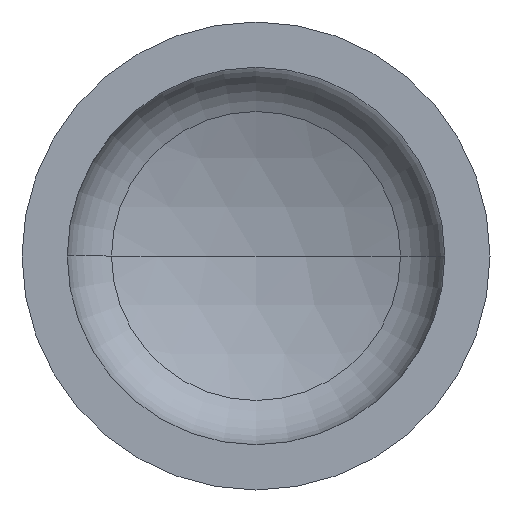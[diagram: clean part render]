
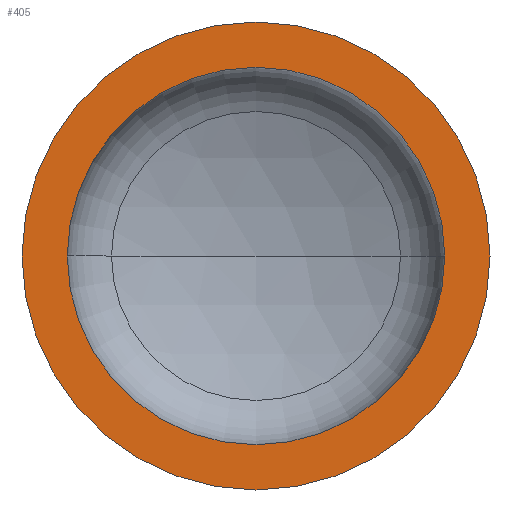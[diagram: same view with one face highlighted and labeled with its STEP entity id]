
A CAD part, front view. The second image highlights one B-rep face of the part: STEP entity #405.
In plain terms, the highlighted planar face has unit normal (0, -1, 0).
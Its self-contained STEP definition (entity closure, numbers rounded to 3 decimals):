
#1 = ORIENTED_EDGE ( 'NONE', *, *, #144, .F. ) ;
#14 = EDGE_LOOP ( 'NONE', ( #59, #17 ) ) ;
#16 = AXIS2_PLACEMENT_3D ( 'NONE', #68, #123, #142 ) ;
#17 = ORIENTED_EDGE ( 'NONE', *, *, #140, .T. ) ;
#55 = EDGE_LOOP ( 'NONE', ( #1, #108 ) ) ;
#59 = ORIENTED_EDGE ( 'NONE', *, *, #121, .T. ) ;
#68 = CARTESIAN_POINT ( 'NONE',  ( 0., 0., 0. ) ) ;
#77 = VERTEX_POINT ( 'NONE', #233 ) ;
#83 = PLANE ( 'NONE',  #392 ) ;
#92 = DIRECTION ( 'NONE',  ( -1., 0., 0. ) ) ;
#94 = AXIS2_PLACEMENT_3D ( 'NONE', #289, #192, #201 ) ;
#100 = AXIS2_PLACEMENT_3D ( 'NONE', #352, #356, #300 ) ;
#104 = VERTEX_POINT ( 'NONE', #238 ) ;
#108 = ORIENTED_EDGE ( 'NONE', *, *, #358, .F. ) ;
#116 = AXIS2_PLACEMENT_3D ( 'NONE', #322, #321, #320 ) ;
#121 = EDGE_CURVE ( 'NONE', #77, #104, #397, .T. ) ;
#122 = VERTEX_POINT ( 'NONE', #241 ) ;
#123 = DIRECTION ( 'NONE',  ( 0., -1., 0. ) ) ;
#140 = EDGE_CURVE ( 'NONE', #104, #77, #275, .T. ) ;
#142 = DIRECTION ( 'NONE',  ( 1., 0., 0. ) ) ;
#144 = EDGE_CURVE ( 'NONE', #150, #122, #155, .T. ) ;
#150 = VERTEX_POINT ( 'NONE', #222 ) ;
#155 = CIRCLE ( 'NONE', #94, 484. ) ;
#192 = DIRECTION ( 'NONE',  ( 0., -1., 0. ) ) ;
#201 = DIRECTION ( 'NONE',  ( 1., 0., 0. ) ) ;
#222 = CARTESIAN_POINT ( 'NONE',  ( 484., 0., 0. ) ) ;
#233 = CARTESIAN_POINT ( 'NONE',  ( 600., 0., 0. ) ) ;
#238 = CARTESIAN_POINT ( 'NONE',  ( -600., 0., 0. ) ) ;
#241 = CARTESIAN_POINT ( 'NONE',  ( -484., 0., 0. ) ) ;
#275 = CIRCLE ( 'NONE', #100, 600. ) ;
#289 = CARTESIAN_POINT ( 'NONE',  ( 0., 0., 0. ) ) ;
#299 = CARTESIAN_POINT ( 'NONE',  ( -600., 0., 0. ) ) ;
#300 = DIRECTION ( 'NONE',  ( 1., 0., 0. ) ) ;
#320 = DIRECTION ( 'NONE',  ( 1., 0., 0. ) ) ;
#321 = DIRECTION ( 'NONE',  ( 0., -1., 0. ) ) ;
#322 = CARTESIAN_POINT ( 'NONE',  ( 0., 0., 0. ) ) ;
#339 = FACE_BOUND ( 'NONE', #55, .T. ) ;
#352 = CARTESIAN_POINT ( 'NONE',  ( 0., 0., 0. ) ) ;
#356 = DIRECTION ( 'NONE',  ( 0., -1., 0. ) ) ;
#358 = EDGE_CURVE ( 'NONE', #122, #150, #404, .T. ) ;
#383 = FACE_OUTER_BOUND ( 'NONE', #14, .T. ) ;
#388 = DIRECTION ( 'NONE',  ( 0., 1., 0. ) ) ;
#392 = AXIS2_PLACEMENT_3D ( 'NONE', #299, #388, #92 ) ;
#397 = CIRCLE ( 'NONE', #116, 600. ) ;
#404 = CIRCLE ( 'NONE', #16, 484. ) ;
#405 = ADVANCED_FACE ( 'NONE', ( #339, #383 ), #83, .F. ) ;
